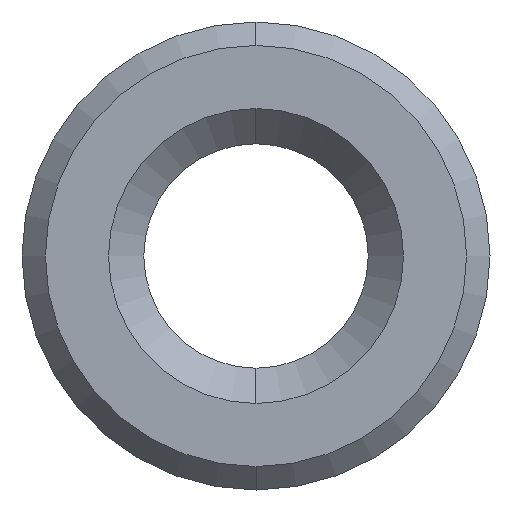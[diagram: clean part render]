
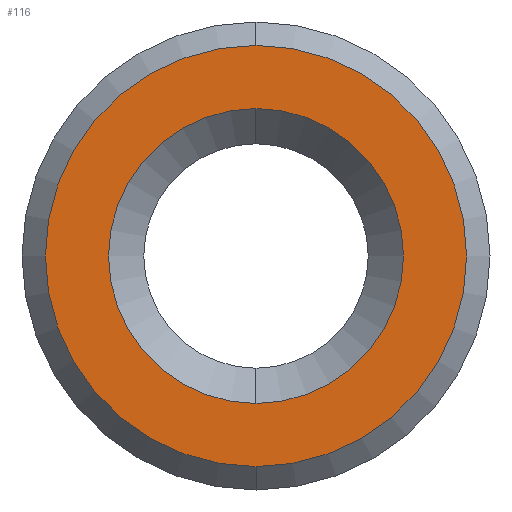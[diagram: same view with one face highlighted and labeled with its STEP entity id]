
A CAD part, left-side view. The second image highlights one B-rep face of the part: STEP entity #116.
In plain terms, the highlighted planar face has unit normal (-1, 0, 0).
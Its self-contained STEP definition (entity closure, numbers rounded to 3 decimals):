
#1=CARTESIAN_POINT('POINT83',(-5.563,0.,
   2.503));
#2=VERTEX_POINT('VERTEX83',#1);
#20=CARTESIAN_POINT('POINT86',(-5.563,0.,
   -2.503));
#21=VERTEX_POINT('VERTEX86',#20);
#28=CARTESIAN_POINT('POS90',(-5.563,0.,
   0.));
#29=DIRECTION('DIR139',(1.,0.,
   0.));
#30=DIRECTION('DIR140',(0.,0.,
   1.));
#31=AXIS2_PLACEMENT_3D('AXIS50',#28,#29,#30);
#32=CIRCLE('ELLIPSE19',#31,2.503);
#33=EDGE_CURVE('EDGE148',#21,#2,#32,.T.);
#44=EDGE_CURVE('EDGE149',#2,#21,#32,.T.);
#92=CARTESIAN_POINT('POINT89',(-5.563,0.,
   1.753));
#93=VERTEX_POINT('VERTEX89',#92);
#94=CARTESIAN_POINT('POINT90',(-5.563,0.,
   -1.753));
#95=VERTEX_POINT('VERTEX90',#94);
#96=CARTESIAN_POINT('POS96',(-5.563,0.,
   0.));
#97=DIRECTION('DIR149',(1.,0.,0.));
#98=DIRECTION('DIR150',(0.,0.,1.));
#99=AXIS2_PLACEMENT_3D('AXIS54',#96,#97,#98);
#100=CIRCLE('ELLIPSE21',#99,1.753);
#101=EDGE_CURVE('EDGE155',#93,#95,#100,.T.);
#102=ORIENTED_EDGE('COEDGE305',*,*,#101,.T.);
#103=EDGE_CURVE('EDGE156',#95,#93,#100,.T.);
#104=ORIENTED_EDGE('COEDGE306',*,*,#103,.T.);
#105=EDGE_LOOP('NONE',(#102,#104));
#106=FACE_BOUND('LOOP1',#105,.T.);
#107=ORIENTED_EDGE('COEDGE307',*,*,#44,.F.);
#108=ORIENTED_EDGE('COEDGE308',*,*,#33,.F.);
#109=EDGE_LOOP('NONE',(#107,#108));
#110=FACE_BOUND('LOOP1',#109,.T.);
#111=CARTESIAN_POINT('POS97',(-5.563,0.,
   1.252));
#112=DIRECTION('DIR151',(-1.,0.,0.));
#113=DIRECTION('DIR152',(0.,1.,0.));
#114=AXIS2_PLACEMENT_3D('AXIS55',#111,#112,#113);
#115=PLANE('PLANE19',#114);
#116=ADVANCED_FACE('FACE73',(#106,#110),#115,.T.);
